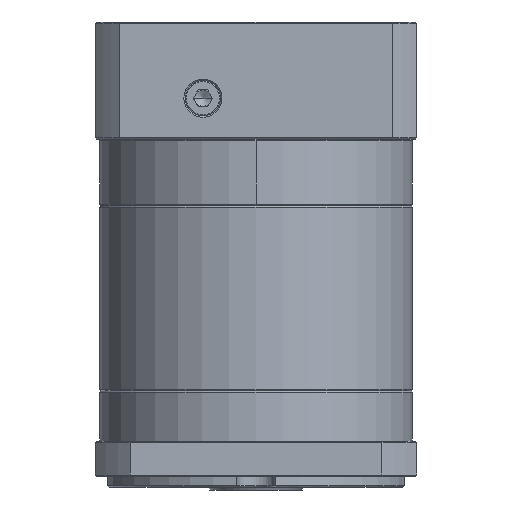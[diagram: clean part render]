
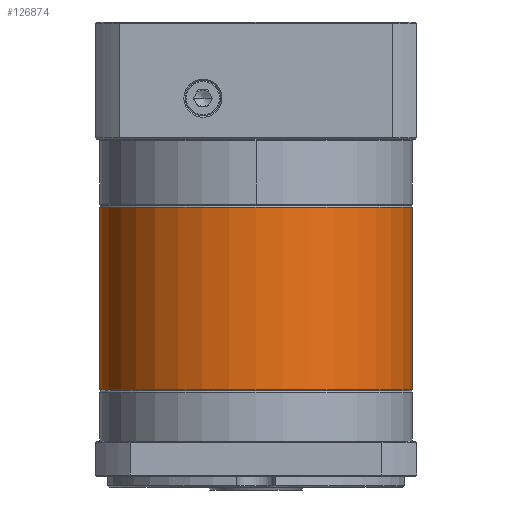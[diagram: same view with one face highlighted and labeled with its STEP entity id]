
A CAD part, front view. The second image highlights one B-rep face of the part: STEP entity #126874.
In plain terms, the highlighted cylindrical face has radius 57.5 mm (diameter 115 mm), a partial arc.
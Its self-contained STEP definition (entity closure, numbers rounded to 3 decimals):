
#3630 = CARTESIAN_POINT ( 'NONE',  ( 106.12, 55.652, -125.42 ) ) ;
#4576 = LINE ( 'NONE', #67388, #105886 ) ;
#8425 = ORIENTED_EDGE ( 'NONE', *, *, #16723, .T. ) ;
#10393 = VERTEX_POINT ( 'NONE', #57493 ) ;
#10800 = VECTOR ( 'NONE', #70698, 1000. ) ;
#16723 = EDGE_CURVE ( 'NONE', #10393, #45062, #94495, .T. ) ;
#17828 = DIRECTION ( 'NONE',  ( 0., 0., -1. ) ) ;
#23437 = EDGE_CURVE ( 'NONE', #35175, #114892, #96031, .T. ) ;
#26336 = VERTEX_POINT ( 'NONE', #80714 ) ;
#27188 = AXIS2_PLACEMENT_3D ( 'NONE', #42021, #51852, #62605 ) ;
#35175 = VERTEX_POINT ( 'NONE', #47607 ) ;
#35501 = DIRECTION ( 'NONE',  ( -1., 0., 0. ) ) ;
#39386 = EDGE_CURVE ( 'NONE', #26336, #45062, #4576, .T. ) ;
#41102 = CARTESIAN_POINT ( 'NONE',  ( -8.88, 55.652, -57.708 ) ) ;
#42021 = CARTESIAN_POINT ( 'NONE',  ( 48.62, 55.652, -57.708 ) ) ;
#43670 = ORIENTED_EDGE ( 'NONE', *, *, #39386, .F. ) ;
#45062 = VERTEX_POINT ( 'NONE', #3630 ) ;
#47607 = CARTESIAN_POINT ( 'NONE',  ( 48.62, -1.848, -58.208 ) ) ;
#50197 = EDGE_LOOP ( 'NONE', ( #43670, #123008, #98720, #109655, #8425 ) ) ;
#51852 = DIRECTION ( 'NONE',  ( 0., 0., -1. ) ) ;
#55911 = DIRECTION ( 'NONE',  ( 0., 0., 1. ) ) ;
#57493 = CARTESIAN_POINT ( 'NONE',  ( -8.88, 55.652, -125.42 ) ) ;
#62605 = DIRECTION ( 'NONE',  ( -1., 0., 0. ) ) ;
#62992 = LINE ( 'NONE', #41102, #10800 ) ;
#65141 = CARTESIAN_POINT ( 'NONE',  ( 48.62, 55.652, -58.208 ) ) ;
#67388 = CARTESIAN_POINT ( 'NONE',  ( 106.12, 55.652, -57.708 ) ) ;
#70698 = DIRECTION ( 'NONE',  ( 0., 0., -1. ) ) ;
#76617 = CARTESIAN_POINT ( 'NONE',  ( 48.62, 55.652, -58.208 ) ) ;
#80714 = CARTESIAN_POINT ( 'NONE',  ( 106.12, 55.652, -58.208 ) ) ;
#81114 = EDGE_CURVE ( 'NONE', #114892, #10393, #62992, .T. ) ;
#81616 = AXIS2_PLACEMENT_3D ( 'NONE', #76617, #17828, #87348 ) ;
#87348 = DIRECTION ( 'NONE',  ( -1., 0., 0. ) ) ;
#87452 = CYLINDRICAL_SURFACE ( 'NONE', #27188, 57.5 ) ;
#91377 = CARTESIAN_POINT ( 'NONE',  ( -8.88, 55.652, -58.208 ) ) ;
#94495 = CIRCLE ( 'NONE', #126384, 57.5 ) ;
#96031 = CIRCLE ( 'NONE', #81616, 57.5 ) ;
#96314 = DIRECTION ( 'NONE',  ( -1., 0., 0. ) ) ;
#98720 = ORIENTED_EDGE ( 'NONE', *, *, #23437, .T. ) ;
#105886 = VECTOR ( 'NONE', #119162, 1000. ) ;
#109655 = ORIENTED_EDGE ( 'NONE', *, *, #81114, .T. ) ;
#114493 = DIRECTION ( 'NONE',  ( 0., 0., -1. ) ) ;
#114892 = VERTEX_POINT ( 'NONE', #91377 ) ;
#119162 = DIRECTION ( 'NONE',  ( 0., 0., -1. ) ) ;
#119682 = FACE_OUTER_BOUND ( 'NONE', #50197, .T. ) ;
#122043 = EDGE_CURVE ( 'NONE', #26336, #35175, #126747, .T. ) ;
#123008 = ORIENTED_EDGE ( 'NONE', *, *, #122043, .T. ) ;
#124261 = AXIS2_PLACEMENT_3D ( 'NONE', #65141, #114493, #35501 ) ;
#125069 = CARTESIAN_POINT ( 'NONE',  ( 48.62, 55.652, -125.42 ) ) ;
#126384 = AXIS2_PLACEMENT_3D ( 'NONE', #125069, #55911, #96314 ) ;
#126747 = CIRCLE ( 'NONE', #124261, 57.5 ) ;
#126874 = ADVANCED_FACE ( 'NONE', ( #119682 ), #87452, .T. ) ;
